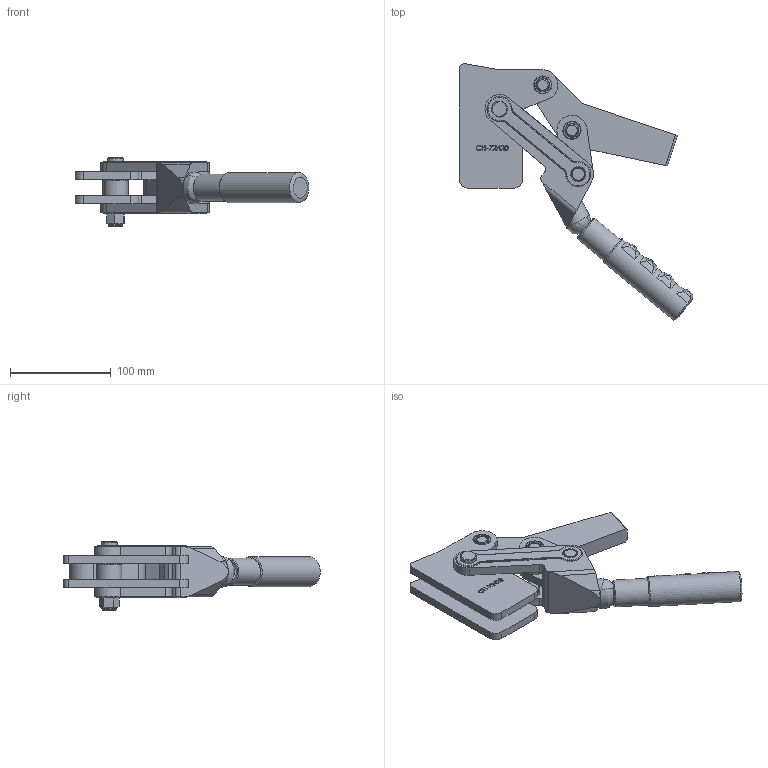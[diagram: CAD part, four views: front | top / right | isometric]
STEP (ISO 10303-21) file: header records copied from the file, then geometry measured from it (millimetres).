
FILE_DESCRIPTION(/* description */ ('STEP AP203'),/* implementation_level */ '2;1');
FILE_NAME(/* name */ 'D:\Vault_2016\Projekty\NASZ KATALOG\CLAMPTEK\STRONA\Heavy duty weldables\CH-72420\CH-72420_OTWARTY.stp',/* time_stamp */ '2019-01-21T10:00:23+01:00',/* author */ ('CADENGINEERING4'),/* organization */ ('Î¢ÈíÖÐ¹ú'),/* preprocessor_version */ 'ST-DEVELOPER v17.2',/* originating_system */ 'Autodesk Inventor 2019',/* authorisation */ '');
FILE_SCHEMA (('AUTOMOTIVE_DESIGN { 1 0 10303 214 3 1 1 }'));
Products named in the file (12): CH-72420_OTWARTY; CH-72420-01; 72425-08; 72425-03; CH-72420-02; 72425-07; 72425-10; M12; 72415-04; 72425-11; 72425-06; 72425-09
Assembly tree (18 placements, depth 2):
  CH-72420_OTWARTY
    CH-72420-01
    72425-08  x2
    72425-03  x2
    72425-06  x6
    CH-72420-02
    72425-07
    72425-10
    M12
    72415-04
    72425-11
    72425-09
Bounding box: 232.06 x 255.01 x 68.5 mm (x, y, z)
Volume: 467512.2 mm3; surface area: 161561.7 mm2
Topology: 20 solids, 20 shells, 4032 faces, 11442 edges, 7644 vertices
Faces by surface type: plane 2420, cylinder 1463, torus 51, cone 50, bspline 48
Full cylindrical faces by diameter (mm): 10.5 x5, 11.5 x1, 12.5 x4, 13 x13, 13.2 x1, 13.8 x1, 16 x1, 18 x8, 21.25 x1, 24.6 x1, 25 x1, 26.75 x1, 29.8 x1
Entity records: 71788 total; most frequent: CARTESIAN_POINT 22429, DIRECTION 10378, ORIENTED_EDGE 10316, EDGE_CURVE 5158, AXIS2_PLACEMENT_3D 3572, VERTEX_POINT 3446, LINE 3234, VECTOR 3234
